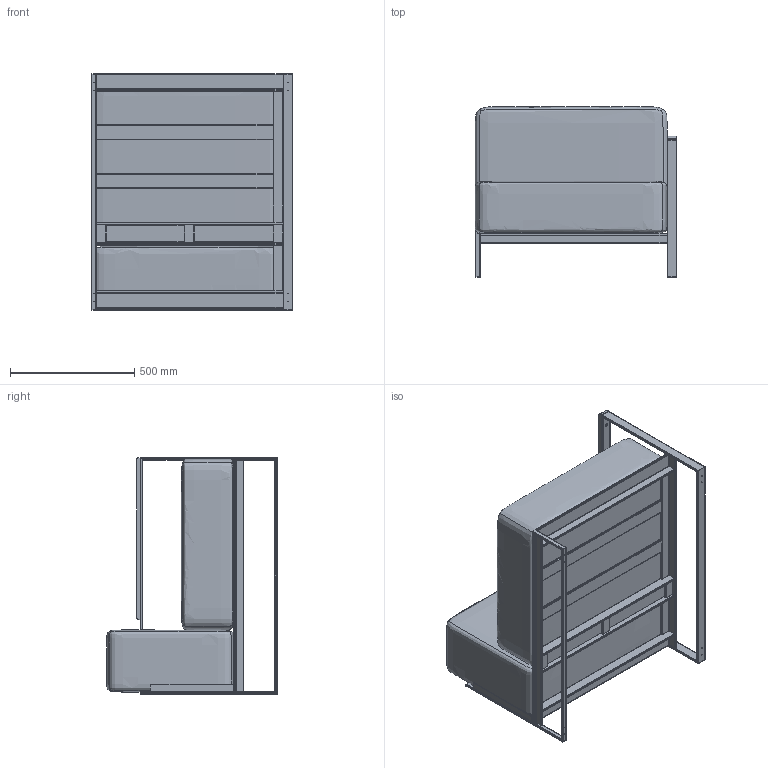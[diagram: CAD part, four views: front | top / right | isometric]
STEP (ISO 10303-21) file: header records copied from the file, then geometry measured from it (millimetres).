
FILE_DESCRIPTION(/* description */ (''),/* implementation_level */ '2;1');
FILE_NAME(/* name */ 'C:\INVENTOR\Workspace\# ARKITEKT FILER\Moore Sofa\Garden Moore End Right.stp',/* time_stamp */ '2020-06-08T10:34:03+02:00',/* author */ ('Röshults'),/* organization */ (''),/* preprocessor_version */ 'ST-DEVELOPER v17.2',/* originating_system */ 'Autodesk Inventor 2019',/* authorisation */ '');
FILE_SCHEMA (('AUTOMOTIVE_DESIGN { 1 0 10303 214 3 1 1 }'));
Length unit declared in the file: millimetre
Products named in the file (35): Garden Moore End Right; 100755; Frame 1583823913769; Skeleton 1583823913770; CSN EN 10305-5 - 20 x 10 x 1,5  - 950; CSN EN 10305-5 - 20 x 10 x 1,5  - 175; CSN EN 10305-5 - 20 x 10 x 1,5  - 940; CSN EN 10305-5 - 20 x 10 x 1,5  - 548,5; CSN EN 10305-5 - 30 x 10 x 1,5  - 930; CSN EN 10305-5 - 30 x 10 x 1,5  - 333; CSN EN 10305-5 - 40 x 10 x 1,5  - 950; CSN EN 10305-5 - 40 x 10 x 1,5  - 550; CSN EN 10305-5 - 40 x 10 x 1,5  - 940; CSN EN 10305-5 - 40 x 10 x 1,5  - 550_1; CSN EN 10305-5 - 40 x 10 x 1,5  - 790; CSN EN 10305-5 - 40 x 10 x 1,5  - 930; CSN EN 10305-5 - 40 x 10 x 1,5  - 526; CSN EN 10305-5 - 40 x 10 x 1,5  - 750; CSN EN 10305-5 - 40 x 10 x 1,5  - 750_1; CSN EN 10305-5 - 40 x 10 x 1,5  - 750_2; CSN EN 10305-5 - 40 x 10 x 1,5  - 750_3; CSN EN 10305-5 - 40 x 10 x 1,5  - 72; CSN EN 10305-5 - 40 x 10 x 1,5  - 72_1; CSN EN 10305-5 - 40 x 10 x 1,5  - 72_2; CSN EN 10305-5 - 40 x 10 x 1,5  - 182; CSN EN 10305-5 - 60 x 10 x 1,5  - 750; CSN EN 10305-5 - 60 x 10 x 1,5  - 710; CSN EN 10305-5 - 60 x 10 x 1,5  - 710_1; CSN EN 10305-5 - 60 x 10 x 1,5  - 750_1; End Cap 20x10; End Cap 30x10; 100527; 100528; 100759-1; 100759-2
Assembly tree (34 placements, depth 4):
  Garden Moore End Right
    100755
      Frame 1583823913769
        Skeleton 1583823913770
        CSN EN 10305-5 - 20 x 10 x 1,5  - 950
        CSN EN 10305-5 - 20 x 10 x 1,5  - 175
        CSN EN 10305-5 - 20 x 10 x 1,5  - 940
        CSN EN 10305-5 - 20 x 10 x 1,5  - 548,5
        CSN EN 10305-5 - 30 x 10 x 1,5  - 930
        CSN EN 10305-5 - 30 x 10 x 1,5  - 333
        CSN EN 10305-5 - 40 x 10 x 1,5  - 950
        CSN EN 10305-5 - 40 x 10 x 1,5  - 550
        CSN EN 10305-5 - 40 x 10 x 1,5  - 940
        CSN EN 10305-5 - 40 x 10 x 1,5  - 550_1
        CSN EN 10305-5 - 40 x 10 x 1,5  - 790
        CSN EN 10305-5 - 40 x 10 x 1,5  - 930
        CSN EN 10305-5 - 40 x 10 x 1,5  - 526
        CSN EN 10305-5 - 40 x 10 x 1,5  - 750
        CSN EN 10305-5 - 40 x 10 x 1,5  - 750_1
        CSN EN 10305-5 - 40 x 10 x 1,5  - 750_2
        CSN EN 10305-5 - 40 x 10 x 1,5  - 750_3
        CSN EN 10305-5 - 40 x 10 x 1,5  - 72
        CSN EN 10305-5 - 40 x 10 x 1,5  - 72_1
        CSN EN 10305-5 - 40 x 10 x 1,5  - 72_2
        CSN EN 10305-5 - 40 x 10 x 1,5  - 182
        CSN EN 10305-5 - 60 x 10 x 1,5  - 750
        CSN EN 10305-5 - 60 x 10 x 1,5  - 710
        CSN EN 10305-5 - 60 x 10 x 1,5  - 710_1
        CSN EN 10305-5 - 60 x 10 x 1,5  - 750_1
      End Cap 20x10
      End Cap 30x10
      100527
    100528
    100759-1
    100759-2
Bounding box: 811.28 x 685 x 950 mm (x, y, z)
Volume: 209764077.3 mm3; surface area: 5914946.3 mm2
Topology: 31 solids, 31 shells, 546 faces, 1445 edges, 961 vertices
Faces by surface type: plane 274, cylinder 245, bspline 12, sphere 8, torus 4, cone 3
Full cylindrical faces by diameter (mm): 2.5 x3, 3.242 x8, 5 x3, 10 x3
Entity records: 23176 total; most frequent: CARTESIAN_POINT 7770, DIRECTION 3146, ORIENTED_EDGE 2884, EDGE_CURVE 1442, AXIS2_PLACEMENT_3D 1125, VERTEX_POINT 961, LINE 896, VECTOR 896
